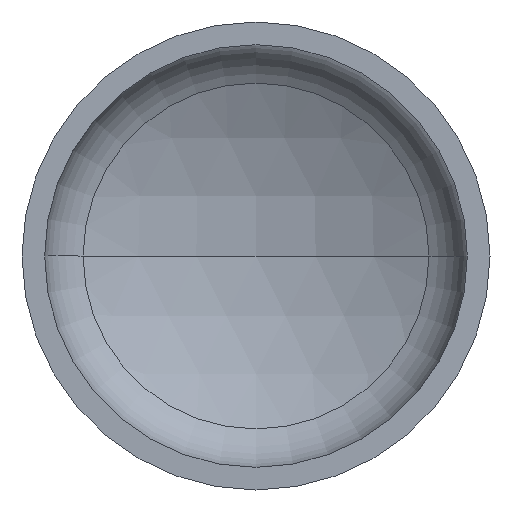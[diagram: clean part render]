
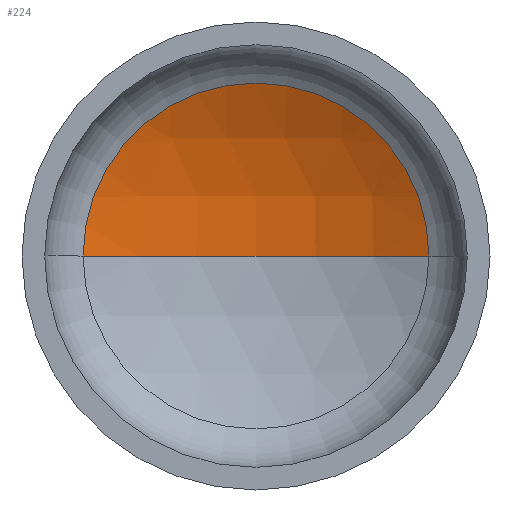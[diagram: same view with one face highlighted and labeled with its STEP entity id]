
A CAD part, front view. The second image highlights one B-rep face of the part: STEP entity #224.
In plain terms, the highlighted spherical face has radius 1520 mm.
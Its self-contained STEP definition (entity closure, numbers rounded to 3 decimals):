
#2 = CIRCLE ( 'NONE', #102, 701.919 ) ;
#5 = DIRECTION ( 'NONE',  ( 1., 0., 0. ) ) ;
#11 = DIRECTION ( 'NONE',  ( -1., 0., 0. ) ) ;
#13 = DIRECTION ( 'NONE',  ( 0., 0., -1. ) ) ;
#18 = EDGE_LOOP ( 'NONE', ( #45, #35, #134 ) ) ;
#19 = CARTESIAN_POINT ( 'NONE',  ( 0., -990.998, 0. ) ) ;
#21 = VERTEX_POINT ( 'NONE', #317 ) ;
#35 = ORIENTED_EDGE ( 'NONE', *, *, #161, .T. ) ;
#44 = CARTESIAN_POINT ( 'NONE',  ( 0., -990.998, 0. ) ) ;
#45 = ORIENTED_EDGE ( 'NONE', *, *, #162, .F. ) ;
#77 = AXIS2_PLACEMENT_3D ( 'NONE', #298, #247, #235 ) ;
#85 = VERTEX_POINT ( 'NONE', #284 ) ;
#94 = AXIS2_PLACEMENT_3D ( 'NONE', #44, #311, #154 ) ;
#98 = AXIS2_PLACEMENT_3D ( 'NONE', #19, #13, #11 ) ;
#102 = AXIS2_PLACEMENT_3D ( 'NONE', #176, #402, #5 ) ;
#129 = VERTEX_POINT ( 'NONE', #357 ) ;
#134 = ORIENTED_EDGE ( 'NONE', *, *, #160, .T. ) ;
#154 = DIRECTION ( 'NONE',  ( 1., 0., 0. ) ) ;
#160 = EDGE_CURVE ( 'NONE', #85, #129, #2, .T. ) ;
#161 = EDGE_CURVE ( 'NONE', #21, #85, #319, .T. ) ;
#162 = EDGE_CURVE ( 'NONE', #21, #129, #182, .T. ) ;
#176 = CARTESIAN_POINT ( 'NONE',  ( 0., 357.227, 0. ) ) ;
#182 = CIRCLE ( 'NONE', #94, 1520. ) ;
#224 = ADVANCED_FACE ( 'NONE', ( #248 ), #404, .F. ) ;
#235 = DIRECTION ( 'NONE',  ( -1., 0., 0. ) ) ;
#247 = DIRECTION ( 'NONE',  ( 0., 0., -1. ) ) ;
#248 = FACE_OUTER_BOUND ( 'NONE', #18, .T. ) ;
#284 = CARTESIAN_POINT ( 'NONE',  ( 701.919, 357.227, 0. ) ) ;
#298 = CARTESIAN_POINT ( 'NONE',  ( 0., -990.998, 0. ) ) ;
#311 = DIRECTION ( 'NONE',  ( 0., 0., 1. ) ) ;
#317 = CARTESIAN_POINT ( 'NONE',  ( 0., 529.002, 0. ) ) ;
#319 = CIRCLE ( 'NONE', #98, 1520. ) ;
#357 = CARTESIAN_POINT ( 'NONE',  ( -701.919, 357.227, 0. ) ) ;
#402 = DIRECTION ( 'NONE',  ( 0., -1., 0. ) ) ;
#404 = SPHERICAL_SURFACE ( 'NONE', #77, 1520. ) ;
